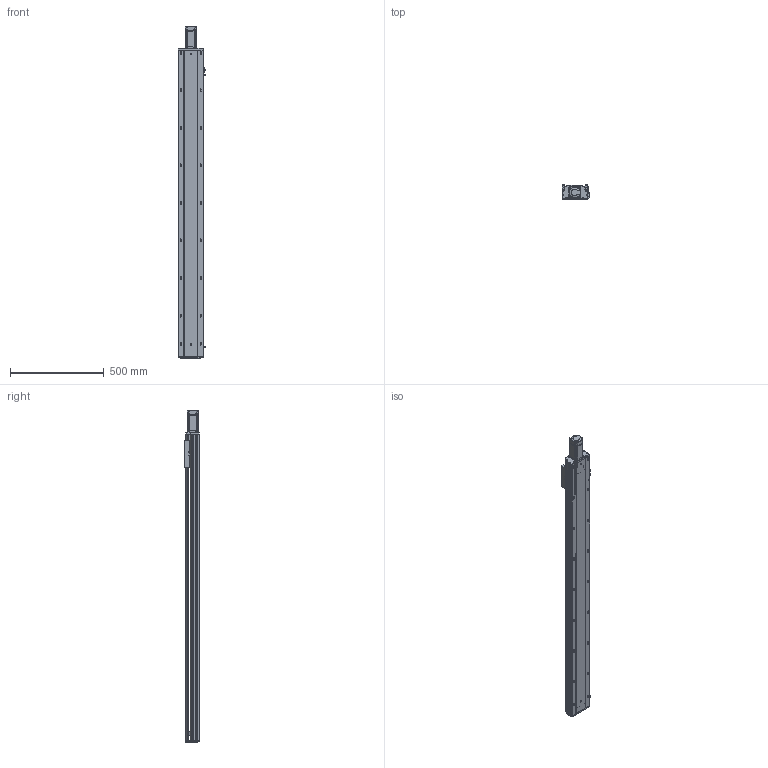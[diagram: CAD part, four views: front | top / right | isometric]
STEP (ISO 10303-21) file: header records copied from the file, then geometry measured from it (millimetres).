
FILE_DESCRIPTION (( 'STEP AP203' ), '1' );
FILE_NAME ('RY140Q-L2010-1000-MK.SLDASM_1400.step', '2021-05-27T07:34:56', ( '盈信电脑' ), ( '东莞市道滘镇水果街19号' ), 'SwSTEP 2.0', 'SolidWorks 2016', '' );
FILE_SCHEMA (( 'CONFIG_CONTROL_DESIGN' ));
Length unit declared in the file: millimetre
Products named in the file (13): 侂狟400W侜督萇儂; RY140Q臏賑輸(20佪裝-J; RY140ヶ裔啣; 滅袉蝶18-10; 15; RY140Q-1000-MK倰第奻裔啣_1400; RY120外置感应片(140共用）; RY140Q-L2010-1000-MK.SLDASM_1400; 覜茼ん672; RY140Q-1000-MK倰第菁釱_1400; RY140Q萇儂傷盓傅釱FK12(80.5酗M5); 滅袉蝶18-15; RY140綴裔啣
Assembly tree (15 placements, depth 3):
  RY140Q-L2010-1000-MK.SLDASM_1400
    RY140Q-1000-MK倰第菁釱_1400
    RY140Q臏賑輸(20佪裝-J
    RY140Q-1000-MK倰第奻裔啣_1400
    RY140ヶ裔啣
    侂狟400W侜督萇儂
      15
    RY140綴裔啣
    覜茼ん672  x3
    RY120外置感应片(140共用）
    RY140Q萇儂傷盓傅釱FK12(80.5酗M5)
    滅袉蝶18-10
    滅袉蝶18-15  x2
Bounding box: 148.7 x 78 x 1769.5 mm (x, y, z)
Volume: 4790812.1 mm3; surface area: 1795299.5 mm2
Topology: 14 solids, 14 shells, 2218 faces, 6145 edges, 3905 vertices
Faces by surface type: plane 1086, cylinder 808, cone 239, bspline 85
Entity records: 73053 total; most frequent: CARTESIAN_POINT 17456, ORIENTED_EDGE 11494, DIRECTION 10987, EDGE_CURVE 5747, VERTEX_POINT 3765, AXIS2_PLACEMENT_3D 3681, VECTOR 3625, LINE 3625
